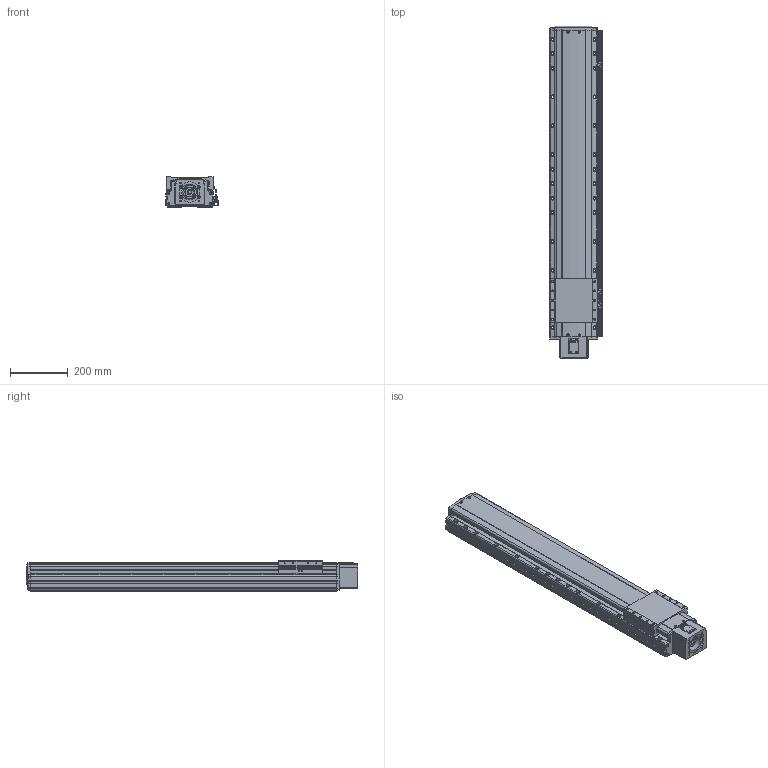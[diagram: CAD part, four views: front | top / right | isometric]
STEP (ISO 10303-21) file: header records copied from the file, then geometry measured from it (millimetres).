
FILE_DESCRIPTION(('STEP AP214'),'1');
FILE_NAME('Z:/Web/3D/PSA165/STP/PSA165-800 (3D)/PSA165ㅁㅁ-800S+3SR.stp','2014-06-23T11:50:42',(' '),(' '),'Spatial InterOp 3D',' ',' ');
FILE_SCHEMA(('automotive_design'));
Length unit declared in the file: millimetre
Products named in the file (85): 스크루 : Round - M4.0 x 12.0; RRCV-PA160; BASE; 스크루 : Round - M4.0 x 10.0; RN15; Screw 20; SLIDE; FRCV; 스크루 : Socket - M6.0 x 25.0; MTHZ-SAN150-80A; SSFX-SAN65; CPLCV-SAN65; 스크루 : Round - M3.0 x 6.0; SDWA47C(2); SDWA47C(3-1); SDWA47C(3); SDWA47C(1); SDWA47C(4); SDWA47C(5); M3.0 x 6.0; SRL-16x17-360L; SGD-SAN150; EE-SX674; SBK-SX674-352; BHCS M4.0 x 10.0
Bounding box: 181 x 1149.8 x 104 mm (x, y, z)
Volume: 15466138.6 mm3; surface area: 1176987.5 mm2
Topology: 85 solids, 85 shells, 3553 faces, 9443 edges, 6093 vertices
Faces by surface type: plane 1755, cylinder 1276, cone 393, sphere 70, bspline 35, torus 24
Entity records: 145165 total; most frequent: CARTESIAN_POINT 24860, DIRECTION 19627, ORIENTED_EDGE 18558, EDGE_CURVE 9279, AXIS2_PLACEMENT_3D 7030, VERTEX_POINT 6093, LINE 5567, VECTOR 5567
